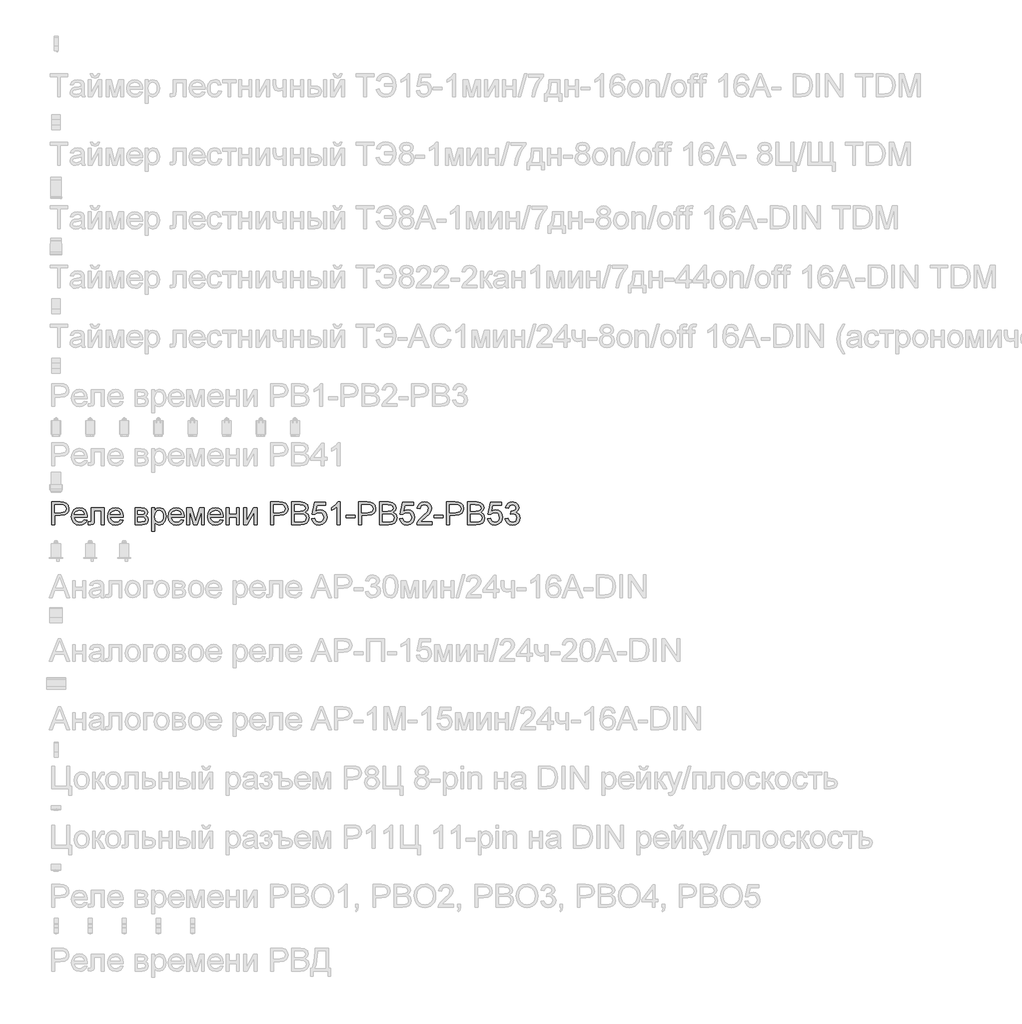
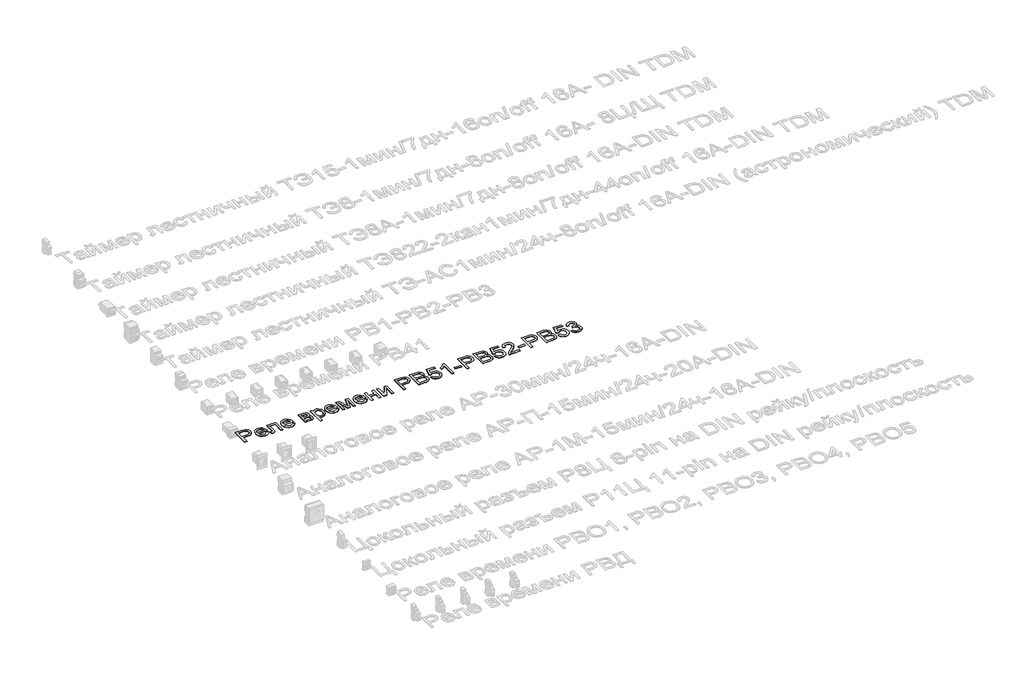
# One storey, part 28 of 34: 1 proxy.
"""IFC4 building model written with IfcOpenShell, lengths in millimetres."""

from ifc_helpers import new_model, si_unit, frame, origin, place, context, project, spatial, polyline, outline, extrude, element, save

model = new_model("IFC4")

# Units and contexts
model_context = context("Model", 3, world=origin())
ifc_project = project(units=[si_unit("LENGTHUNIT", "METRE", prefix="MILLI")], contexts=[model_context])

# Site, building, storey
site = spatial("IfcSite", under=ifc_project)
building = spatial("IfcBuilding", under=site)
storey = spatial("IfcBuildingStorey", under=building, Name="Этаж 01", Elevation=0.0)

# Proxy
placement = place(None, origin())
element("IfcBuildingElementProxy", 1, Name="Надпись на модели 1", ObjectType="Надпись на модели 1", at=placement, inside=storey, context=model_context, shape_type="SweptSolid", body=[
    extrude(outline(polyline([(-19039.0125911, 16276.235284), (-19039.0125911, 16376.6915941), (-19001.7829332, 16376.6915941), (-18986.7733478, 16375.735101), (-18974.5719283, 16371.0384742), (-18966.6624654, 16361.3263895), (-18963.6703585, 16347.6289165), (-18965.6906438, 16335.7892476), (-18971.7514996, 16325.9238788), (-18983.0853308, 16319.2652147), (-19000.9245418, 16317.04566), (-19026.4555523, 16317.04566), (-19026.4555523, 16276.235284), (-19039.0125911, 16276.235284)]), holes=[polyline([(-19026.4555523, 16329.6026988), (-19000.1887779, 16329.6026988), (-18981.6965762, 16334.2134864), (-18977.594692, 16339.7623732), (-18976.2273972, 16347.1874581), (-18979.4524961, 16357.5862559), (-18987.9260447, 16363.2761641), (-19000.4830834, 16364.1345554), (-19026.4555523, 16364.1345554), (-19026.4555523, 16329.6026988)])]), frame((0.0, 0.0, 40.0), z_axis=(0.0, 0.0, 1.0), x_axis=(1.0, 0.0, 0.0)), (0.0, 0.0, 1.0), 2.0),
    extrude(outline(polyline([(-18896.3234279, 16298.2101018), (-18884.0116438, 16296.640472), (-18888.4476875, 16287.3637143), (-18895.5263502, 16280.4291387), (-18905.0882164, 16276.1065253), (-18916.9738705, 16274.6656541), (-18931.7075445, 16277.1519233), (-18943.0444413, 16284.6107308), (-18950.2733225, 16296.5576985), (-18952.6829495, 16312.5084487), (-18950.248797, 16328.9956935), (-18942.9463394, 16341.3258717), (-18931.7627268, 16349.0146054), (-18917.6851091, 16351.5775166), (-18904.0458841, 16349.0207367), (-18893.14738, 16341.3503971), (-18886.0012722, 16329.0447444), (-18883.6192363, 16312.5820251), (-18883.6928127, 16309.1975108), (-18940.1259108, 16309.1975108), (-18937.9523413, 16299.7981258), (-18932.9031609, 16292.8880756), (-18925.6160317, 16288.6390386), (-18916.7286159, 16287.2226929), (-18904.4168318, 16289.8469178), (-18896.3234279, 16298.2101018)]), holes=[polyline([(-18940.1259108, 16321.7545495), (-18896.1762751, 16321.7545495), (-18901.2039957, 16333.1343659), (-18908.5248474, 16337.5489499), (-18917.73416, 16339.0204778), (-18933.1974665, 16334.323851), (-18938.0627059, 16328.8332123), (-18940.1259108, 16321.7545495)])]), frame((0.0, 0.0, 40.0), z_axis=(0.0, 0.0, 1.0), x_axis=(1.0, 0.0, 0.0)), (0.0, 0.0, 1.0), 2.0),
    extrude(outline(polyline([(-18864.7836782, 16350.0078868), (-18808.2770037, 16350.0078868), (-18808.2770037, 16276.3088604), (-18820.8340425, 16276.3088604), (-18820.8340425, 16337.450848), (-18852.2266394, 16337.450848), (-18852.2266394, 16302.2568038), (-18853.072768, 16286.0209451), (-18857.7203439, 16279.1660772), (-18868.7077528, 16276.235284), (-18878.9103468, 16276.8729461), (-18878.9103468, 16288.7923228), (-18873.294015, 16288.7923228), (-18867.6163695, 16289.564875), (-18865.3477639, 16292.0174216), (-18864.7836782, 16302.9680423), (-18864.7836782, 16350.0078868)])), frame((0.0, 0.0, 40.0), z_axis=(0.0, 0.0, 1.0), x_axis=(1.0, 0.0, 0.0)), (0.0, 0.0, 1.0), 2.0),
    extrude(outline(polyline([(-18737.7908134, 16298.2101018), (-18725.4790293, 16296.640472), (-18729.915073, 16287.3637143), (-18736.9937358, 16280.4291387), (-18746.555602, 16276.1065253), (-18758.4412561, 16274.6656541), (-18773.17493, 16277.1519233), (-18784.5118268, 16284.6107308), (-18791.740708, 16296.5576985), (-18794.1503351, 16312.5084487), (-18791.7161826, 16328.9956935), (-18784.4137249, 16341.3258717), (-18773.2301123, 16349.0146054), (-18759.1524946, 16351.5775166), (-18745.5132696, 16349.0207367), (-18734.6147655, 16341.3503971), (-18727.4686578, 16329.0447444), (-18725.0866219, 16312.5820251), (-18725.1601983, 16309.1975108), (-18781.5932963, 16309.1975108), (-18779.4197269, 16299.7981258), (-18774.3705465, 16292.8880756), (-18767.0834173, 16288.6390386), (-18758.1960014, 16287.2226929), (-18745.8842173, 16289.8469178), (-18737.7908134, 16298.2101018)]), holes=[polyline([(-18781.5932963, 16321.7545495), (-18737.6436606, 16321.7545495), (-18742.6713812, 16333.1343659), (-18749.9922329, 16337.5489499), (-18759.2015455, 16339.0204778), (-18774.6648521, 16334.323851), (-18779.5300915, 16328.8332123), (-18781.5932963, 16321.7545495)])]), frame((0.0, 0.0, 40.0), z_axis=(0.0, 0.0, 1.0), x_axis=(1.0, 0.0, 0.0)), (0.0, 0.0, 1.0), 2.0),
    extrude(outline(polyline([(-18673.2888369, 16350.0078868), (-18645.6241109, 16350.0078868), (-18630.45511, 16348.3278923), (-18621.9202477, 16342.1720003), (-18618.3517923, 16331.4421087), (-18620.5100334, 16322.7233055), (-18627.0092819, 16316.5060997), (-18618.5725215, 16309.7002828), (-18615.2125326, 16297.8667453), (-18617.3401168, 16288.2956821), (-18622.3984943, 16281.5573102), (-18630.406059, 16277.5657905), (-18641.3812052, 16276.235284), (-18673.2888369, 16276.235284), (-18673.2888369, 16350.0078868)]), holes=[polyline([(-18660.7317982, 16321.7545495), (-18648.3219122, 16321.7545495), (-18638.08253, 16322.3922117), (-18633.1038603, 16324.9428602), (-18630.9088311, 16329.5536478), (-18634.7593293, 16335.7095399), (-18647.9295047, 16337.450848), (-18660.7317982, 16337.450848), (-18660.7317982, 16321.7545495)]), polyline([(-18660.7317982, 16288.7923228), (-18645.3298053, 16288.7923228), (-18631.6691206, 16291.0609284), (-18627.7695714, 16298.8968149), (-18629.9155497, 16304.9423424), (-18635.507356, 16308.4617468), (-18646.5560786, 16309.1975108), (-18660.7317982, 16309.1975108), (-18660.7317982, 16288.7923228)])]), frame((0.0, 0.0, 40.0), z_axis=(0.0, 0.0, 1.0), x_axis=(1.0, 0.0, 0.0)), (0.0, 0.0, 1.0), 2.0),
    extrude(outline(polyline([(-18599.5162342, 16247.9819468), (-18599.5162342, 16350.0078868), (-18586.9591954, 16350.0078868), (-18586.9591954, 16337.6961027), (-18578.2771803, 16348.1071631), (-18566.5540074, 16351.5775166), (-18550.6369797, 16346.7214743), (-18540.238182, 16333.036264), (-18536.7310403, 16313.6856711), (-18540.6919031, 16293.3417968), (-18552.1943469, 16279.4849083), (-18568.0745863, 16274.6656541), (-18579.0006816, 16277.890753), (-18586.9591954, 16286.0454705), (-18586.9591954, 16247.9819468), (-18599.5162342, 16247.9819468)]), holes=[polyline([(-18586.9591954, 16312.5329742), (-18585.6010977, 16301.2757851), (-18581.5268046, 16293.4031104), (-18575.5149997, 16288.7677973), (-18568.3443664, 16287.2226929), (-18561.0572373, 16288.8229796), (-18554.8921482, 16293.6238396), (-18550.6890964, 16301.7846886), (-18549.2880791, 16313.4649419), (-18550.6553738, 16324.6608173), (-18554.7572581, 16332.6438566), (-18560.759866, 16337.4263225), (-18567.8293317, 16339.0204778), (-18574.9263885, 16337.325155), (-18581.1589226, 16332.2391864), (-18585.5091272, 16323.9219876), (-18586.9591954, 16312.5329742)])]), frame((0.0, 0.0, 40.0), z_axis=(0.0, 0.0, 1.0), x_axis=(1.0, 0.0, 0.0)), (0.0, 0.0, 1.0), 2.0),
    extrude(outline(polyline([(-18470.9537396, 16298.2101018), (-18458.6419555, 16296.640472), (-18463.0779992, 16287.3637143), (-18470.1566619, 16280.4291387), (-18479.7185281, 16276.1065253), (-18491.6041823, 16274.6656541), (-18506.3378562, 16277.1519233), (-18517.674753, 16284.6107308), (-18524.9036342, 16296.5576985), (-18527.3132613, 16312.5084487), (-18524.8791087, 16328.9956935), (-18517.5766511, 16341.3258717), (-18506.3930385, 16349.0146054), (-18492.3154208, 16351.5775166), (-18478.6761958, 16349.0207367), (-18467.7776917, 16341.3503971), (-18460.6315839, 16329.0447444), (-18458.249548, 16312.5820251), (-18458.3231244, 16309.1975108), (-18514.7562225, 16309.1975108), (-18512.582653, 16299.7981258), (-18507.5334726, 16292.8880756), (-18500.2463435, 16288.6390386), (-18491.3589276, 16287.2226929), (-18479.0471435, 16289.8469178), (-18470.9537396, 16298.2101018)]), holes=[polyline([(-18514.7562225, 16321.7545495), (-18470.8065868, 16321.7545495), (-18475.8343074, 16333.1343659), (-18483.1551591, 16337.5489499), (-18492.3644717, 16339.0204778), (-18507.8277782, 16334.323851), (-18512.6930176, 16328.8332123), (-18514.7562225, 16321.7545495)])]), frame((0.0, 0.0, 40.0), z_axis=(0.0, 0.0, 1.0), x_axis=(1.0, 0.0, 0.0)), (0.0, 0.0, 1.0), 2.0),
    extrude(outline(polyline([(-18445.6925093, 16350.0078868), (-18424.0855734, 16350.0078868), (-18407.4327818, 16290.9505638), (-18389.4801404, 16350.0078868), (-18368.7806468, 16350.0078868), (-18368.7806468, 16276.235284), (-18381.3376856, 16276.235284), (-18381.3376856, 16335.6359635), (-18399.3884288, 16276.235284), (-18415.8695422, 16276.235284), (-18433.1354705, 16338.4809176), (-18433.1354705, 16276.235284), (-18445.6925093, 16276.235284), (-18445.6925093, 16350.0078868)])), frame((0.0, 0.0, 40.0), z_axis=(0.0, 0.0, 1.0), x_axis=(1.0, 0.0, 0.0)), (0.0, 0.0, 1.0), 2.0),
    extrude(outline(polyline([(-18298.2944565, 16298.2101018), (-18285.9826724, 16296.640472), (-18290.4187161, 16287.3637143), (-18297.4973789, 16280.4291387), (-18307.0592451, 16276.1065253), (-18318.9448992, 16274.6656541), (-18333.6785731, 16277.1519233), (-18345.0154699, 16284.6107308), (-18352.2443511, 16296.5576985), (-18354.6539782, 16312.5084487), (-18352.2198256, 16328.9956935), (-18344.917368, 16341.3258717), (-18333.7337554, 16349.0146054), (-18319.6561377, 16351.5775166), (-18306.0169127, 16349.0207367), (-18295.1184086, 16341.3503971), (-18287.9723009, 16329.0447444), (-18285.590265, 16312.5820251), (-18285.6638414, 16309.1975108), (-18342.0969394, 16309.1975108), (-18339.92337, 16299.7981258), (-18334.8741896, 16292.8880756), (-18327.5870604, 16288.6390386), (-18318.6996445, 16287.2226929), (-18306.3878604, 16289.8469178), (-18298.2944565, 16298.2101018)]), holes=[polyline([(-18342.0969394, 16321.7545495), (-18298.1473037, 16321.7545495), (-18303.1750243, 16333.1343659), (-18310.495876, 16337.5489499), (-18319.7051886, 16339.0204778), (-18335.1684952, 16334.323851), (-18340.0337346, 16328.8332123), (-18342.0969394, 16321.7545495)])]), frame((0.0, 0.0, 40.0), z_axis=(0.0, 0.0, 1.0), x_axis=(1.0, 0.0, 0.0)), (0.0, 0.0, 1.0), 2.0),
    extrude(outline(polyline([(-18273.0332262, 16350.0078868), (-18260.4761874, 16350.0078868), (-18260.4761874, 16321.7545495), (-18227.5139607, 16321.7545495), (-18227.5139607, 16350.0078868), (-18214.9569219, 16350.0078868), (-18214.9569219, 16276.235284), (-18227.5139607, 16276.235284), (-18227.5139607, 16309.1975108), (-18260.4761874, 16309.1975108), (-18260.4761874, 16276.235284), (-18273.0332262, 16276.235284), (-18273.0332262, 16350.0078868)])), frame((0.0, 0.0, 40.0), z_axis=(0.0, 0.0, 1.0), x_axis=(1.0, 0.0, 0.0)), (0.0, 0.0, 1.0), 2.0),
    extrude(outline(polyline([(-18196.1213637, 16350.0078868), (-18183.564325, 16350.0078868), (-18183.564325, 16293.746467), (-18152.7112883, 16350.0078868), (-18136.4754296, 16350.0078868), (-18136.4754296, 16276.235284), (-18149.0324683, 16276.235284), (-18149.0324683, 16332.1533473), (-18179.6893013, 16276.235284), (-18196.1213637, 16276.235284), (-18196.1213637, 16350.0078868)])), frame((0.0, 0.0, 40.0), z_axis=(0.0, 0.0, 1.0), x_axis=(1.0, 0.0, 0.0)), (0.0, 0.0, 1.0), 2.0),
    extrude(outline(polyline([(-18076.8294954, 16276.235284), (-18076.8294954, 16376.6915941), (-18039.5998375, 16376.6915941), (-18024.5902521, 16375.735101), (-18012.3888326, 16371.0384742), (-18004.4793697, 16361.3263895), (-18001.4872628, 16347.6289165), (-18003.5075481, 16335.7892476), (-18009.568404, 16325.9238788), (-18020.9022351, 16319.2652147), (-18038.7414462, 16317.04566), (-18064.2724567, 16317.04566), (-18064.2724567, 16276.235284), (-18076.8294954, 16276.235284)]), holes=[polyline([(-18064.2724567, 16329.6026988), (-18038.0056822, 16329.6026988), (-18019.5134806, 16334.2134864), (-18015.4115963, 16339.7623732), (-18014.0443016, 16347.1874581), (-18017.2694004, 16357.5862559), (-18025.742949, 16363.2761641), (-18038.2999878, 16364.1345554), (-18064.2724567, 16364.1345554), (-18064.2724567, 16329.6026988)])]), frame((0.0, 0.0, 40.0), z_axis=(0.0, 0.0, 1.0), x_axis=(1.0, 0.0, 0.0)), (0.0, 0.0, 1.0), 2.0),
    extrude(outline(polyline([(-17984.2213345, 16276.235284), (-17984.2213345, 16376.6915941), (-17945.8880306, 16376.6915941), (-17927.1137861, 16373.7362754), (-17916.0282753, 16364.6495902), (-17912.0183616, 16351.7982458), (-17915.3906132, 16340.0628102), (-17925.5809445, 16331.1723286), (-17913.2078467, 16321.8036005), (-17908.8791019, 16306.1808784), (-17911.8344206, 16292.6796092), (-17919.1552723, 16283.0656264), (-17930.0813675, 16277.9643294), (-17946.1823362, 16276.235284), (-17984.2213345, 16276.235284)]), holes=[polyline([(-17971.6642957, 16335.8812181), (-17948.7329847, 16335.8812181), (-17935.3420801, 16336.9603387), (-17927.2854644, 16341.6079145), (-17924.5754004, 16349.7871576), (-17927.1015234, 16357.9786633), (-17934.336536, 16362.8224429), (-17950.4742928, 16364.1345554), (-17971.6642957, 16364.1345554), (-17971.6642957, 16335.8812181)]), polyline([(-17971.6642957, 16288.7923228), (-17945.9125561, 16288.7923228), (-17936.5928789, 16289.2828321), (-17928.7079414, 16292.0174216), (-17923.4840171, 16297.5969652), (-17921.4361407, 16306.0582511), (-17923.8396364, 16315.8193867), (-17931.6264719, 16321.6441849), (-17947.1388294, 16323.3241794), (-17971.6642957, 16323.3241794), (-17971.6642957, 16288.7923228)])]), frame((0.0, 0.0, 40.0), z_axis=(0.0, 0.0, 1.0), x_axis=(1.0, 0.0, 0.0)), (0.0, 0.0, 1.0), 2.0),
    extrude(outline(polyline([(-17896.3220631, 16302.9189914), (-17883.7650244, 16304.4886212), (-17877.437454, 16291.5514377), (-17864.3163295, 16287.2226929), (-17855.3154834, 16288.7279434), (-17848.5709802, 16293.2436949), (-17844.3587313, 16300.2487812), (-17842.9546484, 16309.2220362), (-17848.2153609, 16324.1335198), (-17854.8219084, 16328.235404), (-17864.1201258, 16329.6026988), (-17875.1443229, 16327.4199323), (-17882.1953945, 16321.7545495), (-17894.7524333, 16323.3241794), (-17883.7650244, 16375.1219643), (-17835.1064991, 16375.1219643), (-17835.1064991, 16362.5649255), (-17873.6114813, 16362.5649255), (-17878.9825584, 16334.9001995), (-17870.0123691, 16340.344853), (-17860.6129841, 16342.1597375), (-17848.8806142, 16339.909526), (-17839.1409383, 16333.1588914), (-17832.5834418, 16322.8704582), (-17830.3976096, 16310.0068512), (-17832.3657783, 16297.4498124), (-17838.2702843, 16286.7076581), (-17849.5765243, 16277.6761551), (-17864.3653805, 16274.6656541), (-17876.6986244, 16276.6001003), (-17886.5241393, 16282.4034388), (-17893.2594455, 16291.4012192), (-17896.3220631, 16302.9189914)])), frame((0.0, 0.0, 40.0), z_axis=(0.0, 0.0, 1.0), x_axis=(1.0, 0.0, 0.0)), (0.0, 0.0, 1.0), 2.0),
    extrude(outline(polyline([(-17772.3213053, 16276.235284), (-17784.8783441, 16276.235284), (-17784.8783441, 16354.5205726), (-17796.7731952, 16346.0470239), (-17809.9924216, 16339.7071909), (-17809.9924216, 16351.5775166), (-17791.5860591, 16363.325215), (-17780.4147092, 16376.6915941), (-17772.3213053, 16376.6915941), (-17772.3213053, 16276.235284)])), frame((0.0, 0.0, 40.0), z_axis=(0.0, 0.0, 1.0), x_axis=(1.0, 0.0, 0.0)), (0.0, 0.0, 1.0), 2.0),
    extrude(outline(polyline([(-17745.6375979, 16306.0582511), (-17745.6375979, 16318.6152898), (-17706.3968517, 16318.6152898), (-17706.3968517, 16306.0582511), (-17745.6375979, 16306.0582511)])), frame((0.0, 0.0, 40.0), z_axis=(0.0, 0.0, 1.0), x_axis=(1.0, 0.0, 0.0)), (0.0, 0.0, 1.0), 2.0),
    extrude(outline(polyline([(-17690.7005533, 16276.235284), (-17690.7005533, 16376.6915941), (-17653.4708954, 16376.6915941), (-17638.46131, 16375.735101), (-17626.2598905, 16371.0384742), (-17618.3504276, 16361.3263895), (-17615.3583207, 16347.6289165), (-17617.378606, 16335.7892476), (-17623.4394618, 16325.9238788), (-17634.773293, 16319.2652147), (-17652.6125041, 16317.04566), (-17678.1435145, 16317.04566), (-17678.1435145, 16276.235284), (-17690.7005533, 16276.235284)]), holes=[polyline([(-17678.1435145, 16329.6026988), (-17651.8767401, 16329.6026988), (-17633.3845384, 16334.2134864), (-17629.2826542, 16339.7623732), (-17627.9153594, 16347.1874581), (-17631.1404583, 16357.5862559), (-17639.6140069, 16363.2761641), (-17652.1710457, 16364.1345554), (-17678.1435145, 16364.1345554), (-17678.1435145, 16329.6026988)])]), frame((0.0, 0.0, 40.0), z_axis=(0.0, 0.0, 1.0), x_axis=(1.0, 0.0, 0.0)), (0.0, 0.0, 1.0), 2.0),
    extrude(outline(polyline([(-17598.0923924, 16276.235284), (-17598.0923924, 16376.6915941), (-17559.7590885, 16376.6915941), (-17540.984844, 16373.7362754), (-17529.8993332, 16364.6495902), (-17525.8894194, 16351.7982458), (-17529.2616711, 16340.0628102), (-17539.4520023, 16331.1723286), (-17527.0789046, 16321.8036005), (-17522.7501598, 16306.1808784), (-17525.7054785, 16292.6796092), (-17533.0263302, 16283.0656264), (-17543.9524254, 16277.9643294), (-17560.0533941, 16276.235284), (-17598.0923924, 16276.235284)]), holes=[polyline([(-17585.5353536, 16335.8812181), (-17562.6040426, 16335.8812181), (-17549.2131379, 16336.9603387), (-17541.1565222, 16341.6079145), (-17538.4464582, 16349.7871576), (-17540.9725813, 16357.9786633), (-17548.2075938, 16362.8224429), (-17564.3453507, 16364.1345554), (-17585.5353536, 16364.1345554), (-17585.5353536, 16335.8812181)]), polyline([(-17585.5353536, 16288.7923228), (-17559.7836139, 16288.7923228), (-17550.4639367, 16289.2828321), (-17542.5789993, 16292.0174216), (-17537.355075, 16297.5969652), (-17535.3071985, 16306.0582511), (-17537.7106942, 16315.8193867), (-17545.4975298, 16321.6441849), (-17561.0098873, 16323.3241794), (-17585.5353536, 16323.3241794), (-17585.5353536, 16288.7923228)])]), frame((0.0, 0.0, 40.0), z_axis=(0.0, 0.0, 1.0), x_axis=(1.0, 0.0, 0.0)), (0.0, 0.0, 1.0), 2.0),
    extrude(outline(polyline([(-17510.193121, 16302.9189914), (-17497.6360822, 16304.4886212), (-17491.3085119, 16291.5514377), (-17478.1873874, 16287.2226929), (-17469.1865413, 16288.7279434), (-17462.442038, 16293.2436949), (-17458.2297892, 16300.2487812), (-17456.8257062, 16309.2220362), (-17462.0864188, 16324.1335198), (-17468.6929662, 16328.235404), (-17477.9911837, 16329.6026988), (-17489.0153808, 16327.4199323), (-17496.0664524, 16321.7545495), (-17508.6234911, 16323.3241794), (-17497.6360822, 16375.1219643), (-17448.977557, 16375.1219643), (-17448.977557, 16362.5649255), (-17487.4825392, 16362.5649255), (-17492.8536163, 16334.9001995), (-17483.883427, 16340.344853), (-17474.484042, 16342.1597375), (-17462.751672, 16339.909526), (-17453.0119962, 16333.1588914), (-17446.4544996, 16322.8704582), (-17444.2686675, 16310.0068512), (-17446.2368361, 16297.4498124), (-17452.1413421, 16286.7076581), (-17463.4475821, 16277.6761551), (-17478.2364383, 16274.6656541), (-17490.5696822, 16276.6001003), (-17500.3951972, 16282.4034388), (-17507.1305034, 16291.4012192), (-17510.193121, 16302.9189914)])), frame((0.0, 0.0, 40.0), z_axis=(0.0, 0.0, 1.0), x_axis=(1.0, 0.0, 0.0)), (0.0, 0.0, 1.0), 2.0),
    extrude(outline(polyline([(-17368.9264348, 16288.7923228), (-17368.9264348, 16276.235284), (-17434.8508884, 16276.235284), (-17433.5019877, 16284.8927736), (-17425.8745677, 16298.2223646), (-17410.1537438, 16312.7782288), (-17388.4732315, 16333.6984516), (-17383.0531035, 16347.9232221), (-17388.1666632, 16359.4379286), (-17401.5207796, 16364.1345554), (-17415.4389818, 16359.5482932), (-17420.7242198, 16346.8686271), (-17433.2812585, 16348.4382569), (-17430.237035, 16360.5844941), (-17423.655013, 16369.4565816), (-17413.878549, 16374.882841), (-17401.2509995, 16376.6915941), (-17388.5314795, 16374.6805059), (-17378.7734096, 16368.6472412), (-17372.5654009, 16359.6341323), (-17370.4960647, 16348.6835116), (-17372.7278821, 16336.7763977), (-17380.1468357, 16324.4646136), (-17398.1362653, 16307.2599989), (-17412.5817649, 16295.1812067), (-17418.2471477, 16288.7923228), (-17368.9264348, 16288.7923228)])), frame((0.0, 0.0, 40.0), z_axis=(0.0, 0.0, 1.0), x_axis=(1.0, 0.0, 0.0)), (0.0, 0.0, 1.0), 2.0),
    extrude(outline(polyline([(-17359.5086558, 16306.0582511), (-17359.5086558, 16318.6152898), (-17320.2679096, 16318.6152898), (-17320.2679096, 16306.0582511), (-17359.5086558, 16306.0582511)])), frame((0.0, 0.0, 40.0), z_axis=(0.0, 0.0, 1.0), x_axis=(1.0, 0.0, 0.0)), (0.0, 0.0, 1.0), 2.0),
    extrude(outline(polyline([(-17304.5716112, 16276.235284), (-17304.5716112, 16376.6915941), (-17267.3419532, 16376.6915941), (-17252.3323678, 16375.735101), (-17240.1309483, 16371.0384742), (-17232.2214854, 16361.3263895), (-17229.2293785, 16347.6289165), (-17231.2496638, 16335.7892476), (-17237.3105197, 16325.9238788), (-17248.6443508, 16319.2652147), (-17266.4835619, 16317.04566), (-17292.0145724, 16317.04566), (-17292.0145724, 16276.235284), (-17304.5716112, 16276.235284)]), holes=[polyline([(-17292.0145724, 16329.6026988), (-17265.7477979, 16329.6026988), (-17247.2555963, 16334.2134864), (-17243.1537121, 16339.7623732), (-17241.7864173, 16347.1874581), (-17245.0115161, 16357.5862559), (-17253.4850648, 16363.2761641), (-17266.0421035, 16364.1345554), (-17292.0145724, 16364.1345554), (-17292.0145724, 16329.6026988)])]), frame((0.0, 0.0, 40.0), z_axis=(0.0, 0.0, 1.0), x_axis=(1.0, 0.0, 0.0)), (0.0, 0.0, 1.0), 2.0),
    extrude(outline(polyline([(-17211.9634502, 16276.235284), (-17211.9634502, 16376.6915941), (-17173.6301463, 16376.6915941), (-17154.8559018, 16373.7362754), (-17143.7703911, 16364.6495902), (-17139.7604773, 16351.7982458), (-17143.1327289, 16340.0628102), (-17153.3230602, 16331.1723286), (-17140.9499624, 16321.8036005), (-17136.6212176, 16306.1808784), (-17139.5765363, 16292.6796092), (-17146.897388, 16283.0656264), (-17157.8234833, 16277.9643294), (-17173.9244519, 16276.235284), (-17211.9634502, 16276.235284)]), holes=[polyline([(-17199.4064115, 16335.8812181), (-17176.4751004, 16335.8812181), (-17163.0841958, 16336.9603387), (-17155.0275801, 16341.6079145), (-17152.3175161, 16349.7871576), (-17154.8436391, 16357.9786633), (-17162.0786517, 16362.8224429), (-17178.2164085, 16364.1345554), (-17199.4064115, 16364.1345554), (-17199.4064115, 16335.8812181)]), polyline([(-17199.4064115, 16288.7923228), (-17173.6546718, 16288.7923228), (-17164.3349946, 16289.2828321), (-17156.4500572, 16292.0174216), (-17151.2261328, 16297.5969652), (-17149.1782564, 16306.0582511), (-17151.5817521, 16315.8193867), (-17159.3685877, 16321.6441849), (-17174.8809451, 16323.3241794), (-17199.4064115, 16323.3241794), (-17199.4064115, 16288.7923228)])]), frame((0.0, 0.0, 40.0), z_axis=(0.0, 0.0, 1.0), x_axis=(1.0, 0.0, 0.0)), (0.0, 0.0, 1.0), 2.0),
    extrude(outline(polyline([(-17124.0641789, 16302.9189914), (-17111.5071401, 16304.4886212), (-17105.1795698, 16291.5514377), (-17092.0584453, 16287.2226929), (-17083.0575991, 16288.7279434), (-17076.3130959, 16293.2436949), (-17072.100847, 16300.2487812), (-17070.6967641, 16309.2220362), (-17075.9574766, 16324.1335198), (-17082.5640241, 16328.235404), (-17091.8622415, 16329.6026988), (-17102.8864387, 16327.4199323), (-17109.9375102, 16321.7545495), (-17122.494549, 16323.3241794), (-17111.5071401, 16375.1219643), (-17062.8486149, 16375.1219643), (-17062.8486149, 16362.5649255), (-17101.353597, 16362.5649255), (-17106.7246741, 16334.9001995), (-17097.7544848, 16340.344853), (-17088.3550999, 16342.1597375), (-17076.6227299, 16339.909526), (-17066.8830541, 16333.1588914), (-17060.3255575, 16322.8704582), (-17058.1397253, 16310.0068512), (-17060.107894, 16297.4498124), (-17066.0124, 16286.7076581), (-17077.31864, 16277.6761551), (-17092.1074962, 16274.6656541), (-17104.4407401, 16276.6001003), (-17114.266255, 16282.4034388), (-17121.0015612, 16291.4012192), (-17124.0641789, 16302.9189914)])), frame((0.0, 0.0, 40.0), z_axis=(0.0, 0.0, 1.0), x_axis=(1.0, 0.0, 0.0)), (0.0, 0.0, 1.0), 2.0),
    extrude(outline(polyline([(-17047.1523164, 16302.9189914), (-17034.5952776, 16304.4886212), (-17027.6668334, 16291.2693949), (-17014.7051244, 16287.2226929), (-17006.0966857, 16288.6145131), (-16999.4502844, 16292.7899738), (-16993.7849016, 16306.5732859), (-16999.4012334, 16319.5595203), (-17013.6750548, 16324.6976055), (-17022.4796972, 16323.3241794), (-17021.0817457, 16335.8812181), (-17019.0706574, 16335.7340653), (-17004.8213615, 16339.3393089), (-17000.0756837, 16343.9133084), (-16998.4937912, 16350.4248197), (-17003.0800534, 16360.247269), (-17014.9013281, 16364.1345554), (-17026.8697557, 16360.2104808), (-17033.0256478, 16348.4382569), (-17045.5826865, 16350.0078868), (-17041.8854725, 16361.2834699), (-17035.3065161, 16369.7018362), (-17026.30567, 16374.9441547), (-17015.3427865, 16376.6915941), (-17000.1983111, 16373.2457661), (-16989.6033096, 16363.827987), (-16985.9367524, 16351.1605837), (-16989.4193686, 16339.5845636), (-16999.7200645, 16331.2704305), (-16986.0348543, 16322.6865173), (-16981.2278629, 16306.3525567), (-16983.6313586, 16294.114349), (-16990.8418457, 16283.8872295), (-17001.7250214, 16276.971048), (-17015.1465828, 16274.6656541), (-17027.2866887, 16276.6338228), (-17037.1704516, 16282.5383288), (-17044.0437135, 16291.5698318), (-17047.1523164, 16302.9189914)])), frame((0.0, 0.0, 40.0), z_axis=(0.0, 0.0, 1.0), x_axis=(1.0, 0.0, 0.0)), (0.0, 0.0, 1.0), 2.0),
])

save(model, "model.ifc")
